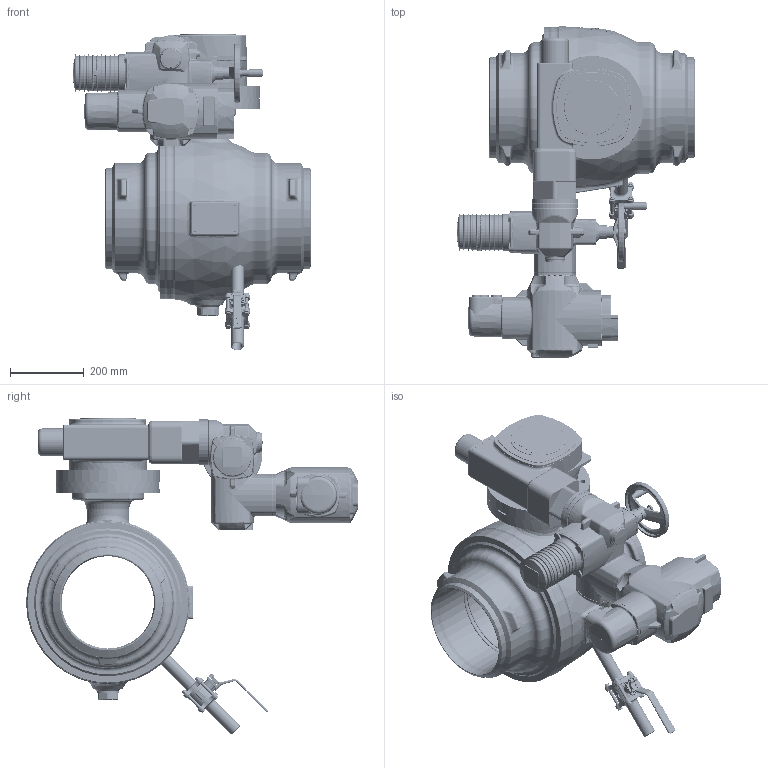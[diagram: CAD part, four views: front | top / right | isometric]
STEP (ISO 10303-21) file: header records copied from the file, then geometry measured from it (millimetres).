
FILE_DESCRIPTION((''),'2;1');
FILE_NAME('250_ASM','2017-01-16T',('schwaba'),('RAND'),'PRO/ENGINEER BY PARAMETRIC TECHNOLOGY CORPORATION, 2016100','PRO/ENGINEER BY PARAMETRIC TECHNOLOGY CORPORATION, 2016100','');
FILE_SCHEMA(('CONFIG_CONTROL_DESIGN'));
Products named in the file (3): KHSVI_250_VVSN_FR_WE_ENTL_O_IT; GS100_F16_SA07_AM_ZWPL_DN250; 250_ASM
Assembly tree (2 placements, depth 2):
  250_ASM
    KHSVI_250_VVSN_FR_WE_ENTL_O_IT
    GS100_F16_SA07_AM_ZWPL_DN250
Bounding box: 644.5 x 898.46 x 857.35 mm (x, y, z)
Volume: 44572301.8 mm3; surface area: 4064578.3 mm2
Topology: 3 solids, 11 shells, 6185 faces, 15343 edges, 9338 vertices
Faces by surface type: plane 2526, bspline 1176, cylinder 1135, torus 729, cone 447, sphere 172
Entity records: 340999 total; most frequent: CARTESIAN_POINT 201390, ORIENTED_EDGE 30570, DIRECTION 27802, EDGE_CURVE 15285, AXIS2_PLACEMENT_3D 10832, VERTEX_POINT 9338, EDGE_LOOP 6507, FACE_OUTER_BOUND 6185
